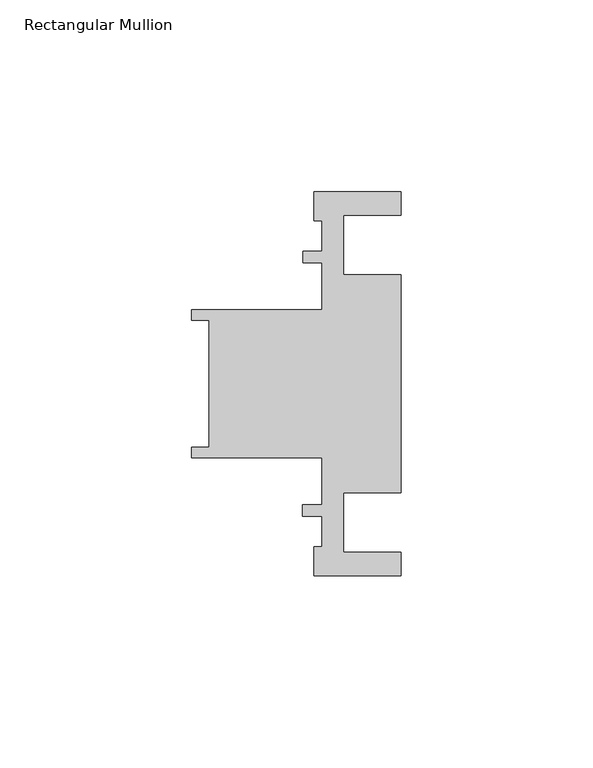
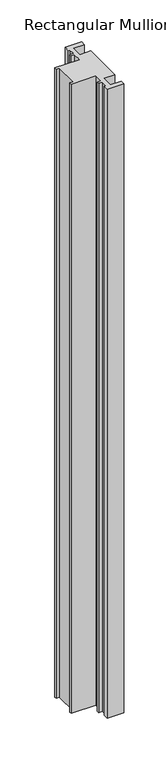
"""IFC4 building model written with IfcOpenShell, lengths in millimetres: member geometry, Rectangular Mullion : Trim-Horizontal-Teknion-Focus-FWSDGH."""

from ifc_helpers import new_model, si_unit, frame, origin, place, context, project, spatial, polyline, outline, extrude, source, transform, mapped, element, save


def rectangular_mullion_ca275080(model_context):
    return source(origin(), model_context, "Body", "SweptSolid", [
        extrude(outline(polyline([(-7.6114172, 50.0), (15.0225334, 50.0), (15.0225334, 43.8908373), (0.0, 43.8908373), (0.0, 28.4342455), (15.0276613, 28.4342455), (15.0276613, -28.4510855), (0.0, -28.4510855), (0.0, -43.890836), (15.0225334, -43.890836), (15.0225334, -49.9999986), (-7.6114172, -49.9999986), (-7.6114172, -42.438658), (-5.6084124, -42.438658), (-5.6084124, -34.5518261), (-10.6084124, -34.5518261), (-10.6084124, -31.5473207), (-5.6084124, -31.5473207), (-5.6084124, -19.2789175), (-39.5593407, -19.2789175), (-39.5593407, -16.5247864), (-35.0525789, -16.5247864), (-35.0525789, 16.5247877), (-39.5593407, 16.5247877), (-39.5593407, 19.2789189), (-5.6084124, 19.2789189), (-5.6084124, 31.5473221), (-10.5653228, 31.5473221), (-10.5653228, 34.5518274), (-5.6084124, 34.5518274), (-5.6084124, 42.4386606), (-7.6114172, 42.4386606), (-7.6114172, 50.0)])), frame((0.0, 0.0, -914.4), z_axis=(0.0, 0.0, 1.0), x_axis=(1.0, 0.0, 0.0)), (0.0, 0.0, 1.0), 914.4),
    ])


if __name__ == "__main__":
    model = new_model("IFC4")
    model_context = context("Model", 3, world=origin())
    ifc_project = project(units=[si_unit("LENGTHUNIT", "METRE", prefix="MILLI")], contexts=[model_context])
    site = spatial("IfcSite", under=ifc_project)
    building = spatial("IfcBuilding", under=site)
    placement = place(None, origin())
    rectangular_mullion_shape = rectangular_mullion_ca275080(model_context)
    element("IfcMember", 1, ObjectType="Rectangular Mullion : Trim-Horizontal-Teknion-Focus-FWSDGH", at=placement, inside=building, context=model_context, shape_type="MappedRepresentation", body=[
        mapped(rectangular_mullion_shape, transform((0.0, 0.0, 0.0), x_axis=(1.0, 0.0, 0.0), y_axis=(0.0, 1.0, 0.0), z_axis=(0.0, 0.0, 1.0))),
    ])
    save(model, "model.ifc")
